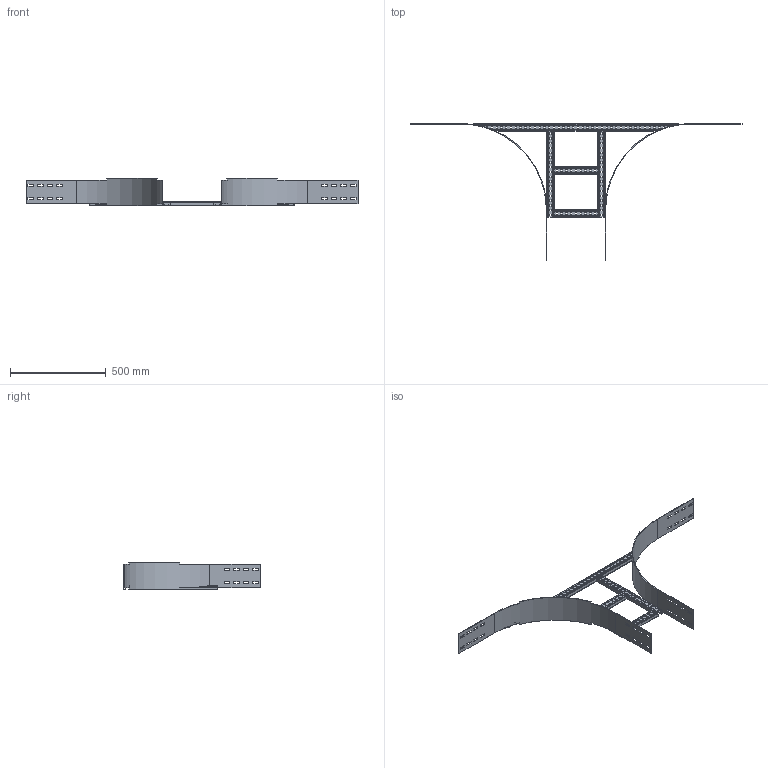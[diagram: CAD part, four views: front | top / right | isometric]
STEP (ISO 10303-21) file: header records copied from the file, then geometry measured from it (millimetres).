
FILE_DESCRIPTION(('Creo Elements/Direct Modeling STEP Export'),'2;1');
FILE_NAME('WPBP15-30-45.stp','2016-06-03T11:44:39',(''),(''),'PTC Creo Elements/Direct Modeling STEP processor for AP214 (Solid Model)','PTC Creo Elements/Direct Modeling 19.0C 15-Aug-2015 (C) Parametric Technology GmbH','');
FILE_SCHEMA(('AUTOMOTIVE_DESIGN { 1 0 10303 214 1 1 1 1 }'));
Length unit declared in the file: millimetre
Products named in the file (5): WPKS30-CUM8C6QM2VSGMG; WPAASP1_30; WPAASP2; WPAAIG_150-450.1; WPBP15-30-45
Assembly tree (7 placements, depth 2):
  WPBP15-30-45
    WPAAIG_150-450.1  x2
    WPAASP2  x2
    WPAASP1_30
    WPKS30-CUM8C6QM2VSGMG  x2
Bounding box: 1735 x 715 x 145 mm (x, y, z)
Volume: 1280395.4 mm3; surface area: 1117193.1 mm2
Topology: 7 solids, 7 shells, 749 faces, 2205 edges, 1470 vertices
Faces by surface type: plane 465, cylinder 284
Entity records: 16362 total; most frequent: ORIENTED_EDGE 2826, CARTESIAN_POINT 2812, DIRECTION 2737, EDGE_CURVE 1413, VECTOR 1003, LINE 1003, VERTEX_POINT 942, AXIS2_PLACEMENT_3D 867
